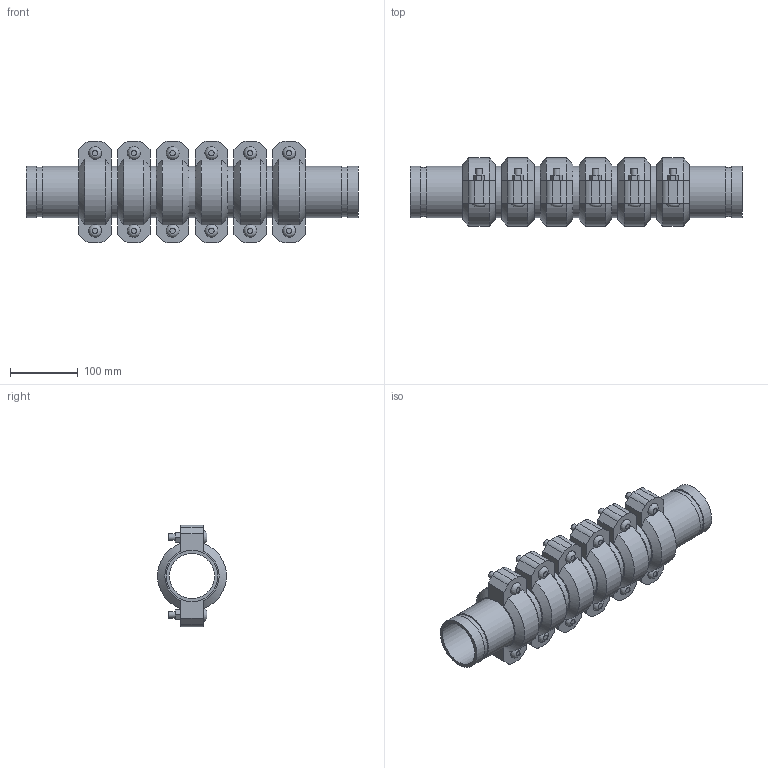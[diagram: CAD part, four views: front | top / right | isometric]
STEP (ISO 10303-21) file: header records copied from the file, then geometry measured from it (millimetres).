
FILE_DESCRIPTION(/* description */ ('VIC EXPANSION JOINT 6 COUPLINGS COMPRESSED STYLE 155 (OGS)','CAx-IF Rec.Pracs.---Representation and Presentation of Product Manufacturing Information (PMI)---4.0---2014-10-13'),/* implementation_level */ '2;1');
FILE_NAME(/* name */ 'C:\Users\kkamble\AppData\Roaming\Autodesk\ApplicationPlugins\Victaulic.Temp\A354\Victaulic_IPS_Expansion Joint_Compressed_6 Couplings_Style 155 (OGS)_02.5 (76.1) (65).stp',/* time_stamp */ '2021-06-27T00:31:40+02:00',/* author */ ('kkamble'),/* organization */ ('Victaulic'),/* preprocessor_version */ 'ST-DEVELOPER v17.2',/* originating_system */ 'Autodesk Inventor 2019',/* authorisation */ '');
FILE_SCHEMA (('AP242_MANAGED_MODEL_BASED_3D_ENGINEERING_MIM_LF { 1 0 10303 442 1 1 4 }'));
Length unit declared in the file: inch
Products named in the file (4): 155-02.5 (76.1); Nipple-02.5 (76.1); Nipple-02.5 (76.1)_1; 075-02.5 (76.1)
Assembly tree (13 placements, depth 2):
  155-02.5 (76.1)
    Nipple-02.5 (76.1)  x2
    Nipple-02.5 (76.1)_1  x5
    075-02.5 (76.1)  x6
Bounding box: 488.95 x 101.25 x 149.86 mm (x, y, z)
Volume: 1792406.1 mm3; surface area: 509578 mm2
Topology: 13 solids, 25 shells, 402 faces, 996 edges, 696 vertices
Faces by surface type: plane 246, cylinder 120, cone 24, bspline 12
Full cylindrical faces by diameter (mm): 9.525 x24, 11.43 x12, 66.65 x7, 72.263 x14, 76.2 x27
Entity records: 2773 total; most frequent: CARTESIAN_POINT 515, DIRECTION 453, ORIENTED_EDGE 382, EDGE_CURVE 191, AXIS2_PLACEMENT_3D 180, VERTEX_POINT 136, EDGE_LOOP 99, LINE 93
